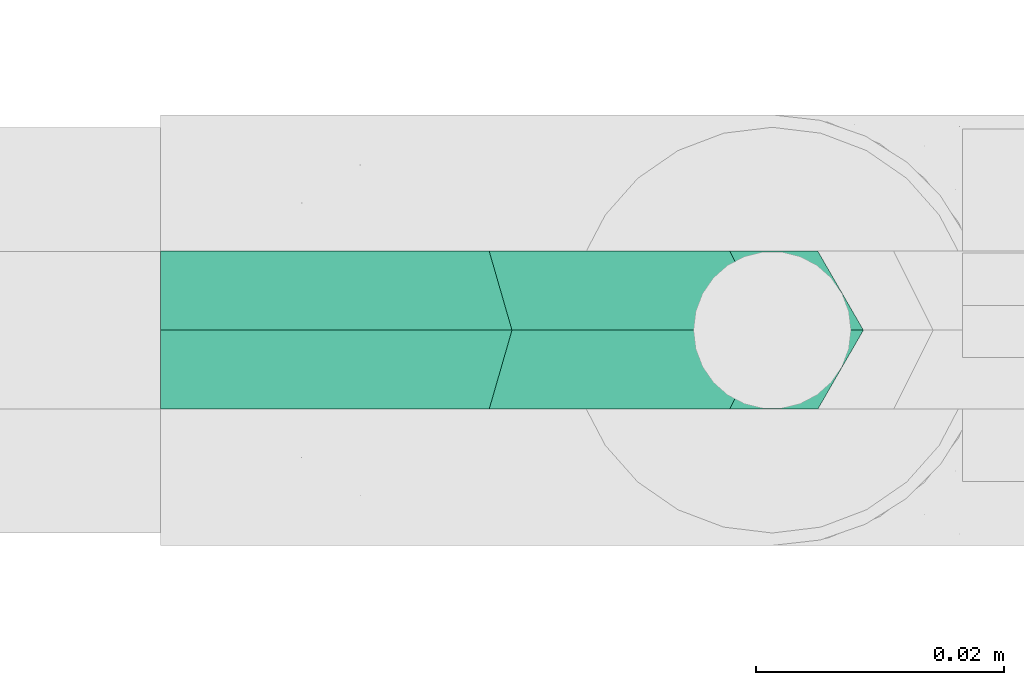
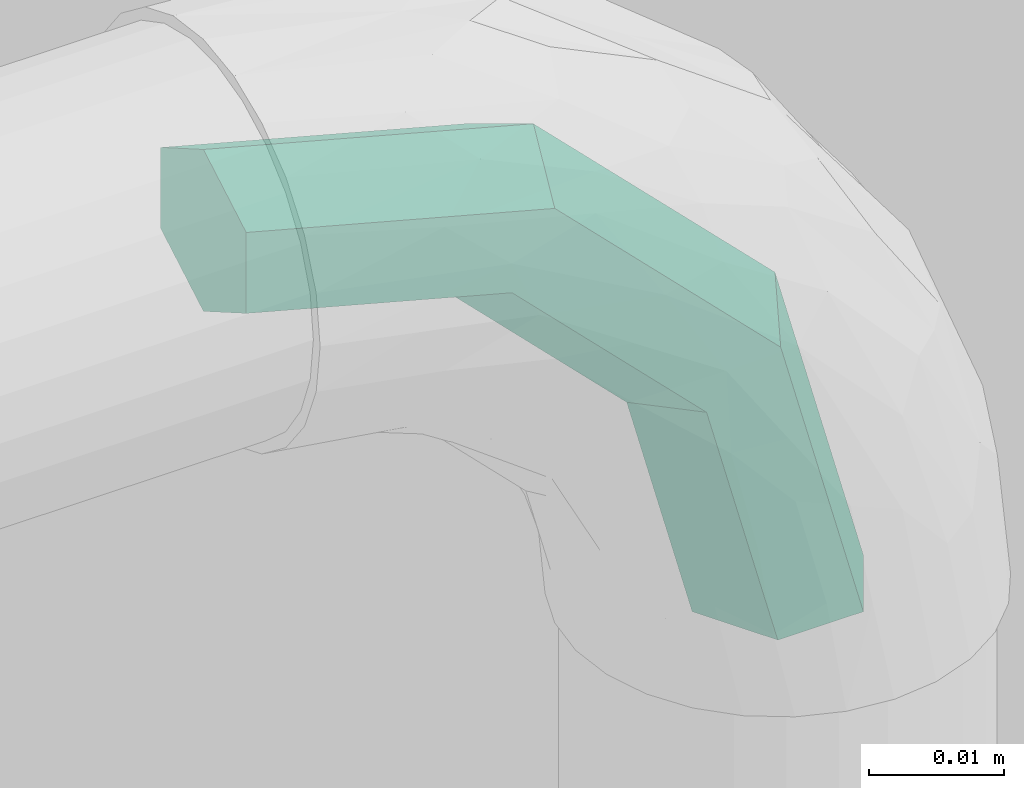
# One storey, part 29 of 32: 1 flow fitting.
"""IFC2X3 building model written with IfcOpenShell, lengths in metres."""

from ifc_helpers import new_model, entity, si_unit, converted_unit, derived_unit, direction, frame, origin, place, context, subcontext, project, spatial, faceted_brep, source, transform, mapped, material, type_object, type_shapes, element, save


model = new_model("IFC2X3")

# Units and contexts
model_context = context("Model", 3, precision=1e-05, world=origin(), true_north=direction((6.123031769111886e-17, 1.0)))
body_context = subcontext(model_context, "Body", "Model", "MODEL_VIEW")
ifc_project = project(units=[si_unit("LENGTHUNIT", "METRE"), si_unit("AREAUNIT", "SQUARE_METRE"), si_unit("VOLUMEUNIT", "CUBIC_METRE"), converted_unit("PLANEANGLEUNIT", "DEGREE", entity("IfcPlaneAngleMeasure", 0.017453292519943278), si_unit("PLANEANGLEUNIT", "RADIAN"), dimensions=[0, 0, 0, 0, 0, 0, 0]), si_unit("MASSUNIT", "GRAM", prefix="KILO"), derived_unit("MASSDENSITYUNIT", [(si_unit("MASSUNIT", "GRAM", prefix="KILO"), 1), (si_unit("LENGTHUNIT", "METRE"), -3)]), derived_unit("IONCONCENTRATIONUNIT", [(si_unit("MASSUNIT", "GRAM", prefix="KILO"), 1), (si_unit("LENGTHUNIT", "METRE"), -3)]), derived_unit("MOMENTOFINERTIAUNIT", [(si_unit("LENGTHUNIT", "METRE"), 4)]), si_unit("TIMEUNIT", "SECOND"), si_unit("FREQUENCYUNIT", "HERTZ"), si_unit("THERMODYNAMICTEMPERATUREUNIT", "DEGREE_CELSIUS"), derived_unit("THERMALTRANSMITTANCEUNIT", [(si_unit("MASSUNIT", "GRAM", prefix="KILO"), 1), (si_unit("THERMODYNAMICTEMPERATUREUNIT", "KELVIN"), -1), (si_unit("TIMEUNIT", "SECOND"), -3)]), derived_unit("THERMALCONDUCTANCEUNIT", [(si_unit("MASSUNIT", "GRAM", prefix="KILO"), 1), (si_unit("THERMODYNAMICTEMPERATUREUNIT", "KELVIN"), -1), (si_unit("TIMEUNIT", "SECOND"), -3), (si_unit("LENGTHUNIT", "METRE"), 1)]), derived_unit("VOLUMETRICFLOWRATEUNIT", [(si_unit("LENGTHUNIT", "METRE", prefix="DECI"), 3), (si_unit("TIMEUNIT", "SECOND"), -1)]), derived_unit("MASSFLOWRATEUNIT", [(si_unit("MASSUNIT", "GRAM", prefix="KILO"), 1), (si_unit("TIMEUNIT", "SECOND"), -1)]), derived_unit("ROTATIONALFREQUENCYUNIT", [(si_unit("TIMEUNIT", "SECOND"), -1)]), si_unit("ELECTRICCURRENTUNIT", "AMPERE"), si_unit("ELECTRICVOLTAGEUNIT", "VOLT"), si_unit("POWERUNIT", "WATT"), si_unit("FORCEUNIT", "NEWTON", prefix="KILO"), si_unit("ILLUMINANCEUNIT", "LUX"), si_unit("LUMINOUSFLUXUNIT", "LUMEN"), si_unit("LUMINOUSINTENSITYUNIT", "CANDELA"), si_unit("ENERGYUNIT", "JOULE"), derived_unit("USERDEFINED", [(si_unit("MASSUNIT", "GRAM", prefix="KILO"), -1), (si_unit("LENGTHUNIT", "METRE"), -2), (si_unit("TIMEUNIT", "SECOND"), 3), (si_unit("LUMINOUSFLUXUNIT", "LUMEN"), 1)]), derived_unit("USERDEFINED", [(si_unit("MASSUNIT", "GRAM", prefix="KILO"), 1), (si_unit("TIMEUNIT", "SECOND"), -3), (si_unit("LENGTHUNIT", "METRE"), 3), (si_unit("ELECTRICCURRENTUNIT", "AMPERE"), -2)]), derived_unit("SOUNDPOWERUNIT", [(si_unit("MASSUNIT", "GRAM", prefix="KILO"), 1), (si_unit("TIMEUNIT", "SECOND"), -3), (si_unit("LENGTHUNIT", "METRE"), 2)]), derived_unit("SOUNDPRESSUREUNIT", [(si_unit("MASSUNIT", "GRAM", prefix="KILO"), 1), (si_unit("LENGTHUNIT", "METRE"), -1), (si_unit("TIMEUNIT", "SECOND"), -2)]), derived_unit("LINEARVELOCITYUNIT", [(si_unit("LENGTHUNIT", "METRE"), 1), (si_unit("TIMEUNIT", "SECOND"), -1)]), si_unit("PRESSUREUNIT", "PASCAL"), derived_unit("USERDEFINED", [(si_unit("MASSUNIT", "GRAM", prefix="KILO"), 1), (si_unit("LENGTHUNIT", "METRE"), -2), (si_unit("TIMEUNIT", "SECOND"), -2)]), derived_unit("LINEARFORCEUNIT", [(si_unit("MASSUNIT", "GRAM", prefix="KILO"), 1), (si_unit("TIMEUNIT", "SECOND"), -2)]), derived_unit("PLANARFORCEUNIT", [(si_unit("MASSUNIT", "GRAM", prefix="KILO"), 1), (si_unit("LENGTHUNIT", "METRE"), -1), (si_unit("TIMEUNIT", "SECOND"), -2)]), derived_unit("SPECIFICHEATCAPACITYUNIT", [(si_unit("THERMODYNAMICTEMPERATUREUNIT", "KELVIN"), -1), (si_unit("LENGTHUNIT", "METRE"), 2), (si_unit("TIMEUNIT", "SECOND"), -2)]), derived_unit("HEATFLUXDENSITYUNIT", [(si_unit("MASSUNIT", "GRAM", prefix="KILO"), 1), (si_unit("TIMEUNIT", "SECOND"), -3)]), derived_unit("HEATINGVALUEUNIT", [(si_unit("LENGTHUNIT", "METRE"), 2), (si_unit("TIMEUNIT", "SECOND"), -2)]), derived_unit("VAPORPERMEABILITYUNIT", [(si_unit("LENGTHUNIT", "METRE"), -1), (si_unit("TIMEUNIT", "SECOND"), 1)]), derived_unit("DYNAMICVISCOSITYUNIT", [(si_unit("MASSUNIT", "GRAM", prefix="KILO"), 1), (si_unit("TIMEUNIT", "SECOND"), -1), (si_unit("LENGTHUNIT", "METRE"), -1)]), derived_unit("THERMALEXPANSIONCOEFFICIENTUNIT", [(si_unit("THERMODYNAMICTEMPERATUREUNIT", "KELVIN"), -1)]), derived_unit("MODULUSOFELASTICITYUNIT", [(si_unit("MASSUNIT", "GRAM", prefix="KILO"), 1), (si_unit("LENGTHUNIT", "METRE"), -1), (si_unit("TIMEUNIT", "SECOND"), -2)]), derived_unit("ISOTHERMALMOISTURECAPACITYUNIT", [(si_unit("MASSUNIT", "GRAM", prefix="KILO"), -1), (si_unit("LENGTHUNIT", "METRE"), 3)]), derived_unit("MOISTUREDIFFUSIVITYUNIT", [(si_unit("TIMEUNIT", "SECOND"), -1), (si_unit("LENGTHUNIT", "METRE"), 2)]), derived_unit("MASSPERLENGTHUNIT", [(si_unit("MASSUNIT", "GRAM", prefix="KILO"), 1), (si_unit("LENGTHUNIT", "METRE"), -1)]), derived_unit("THERMALRESISTANCEUNIT", [(si_unit("MASSUNIT", "GRAM", prefix="KILO"), -1), (si_unit("TIMEUNIT", "SECOND"), 3), (si_unit("THERMODYNAMICTEMPERATUREUNIT", "KELVIN"), 1)]), derived_unit("ACCELERATIONUNIT", [(si_unit("LENGTHUNIT", "METRE"), 1), (si_unit("TIMEUNIT", "SECOND"), -2)]), derived_unit("ANGULARVELOCITYUNIT", [(si_unit("TIMEUNIT", "SECOND"), -1), (si_unit("PLANEANGLEUNIT", "RADIAN"), 1)]), derived_unit("LINEARSTIFFNESSUNIT", [(si_unit("MASSUNIT", "GRAM", prefix="KILO"), 1), (si_unit("TIMEUNIT", "SECOND"), -2)]), derived_unit("WARPINGCONSTANTUNIT", [(si_unit("LENGTHUNIT", "METRE"), 6)]), derived_unit("LINEARMOMENTUNIT", [(si_unit("MASSUNIT", "GRAM", prefix="KILO"), 1), (si_unit("LENGTHUNIT", "METRE"), 1), (si_unit("TIMEUNIT", "SECOND"), -2)]), derived_unit("TORQUEUNIT", [(si_unit("MASSUNIT", "GRAM", prefix="KILO"), 1), (si_unit("LENGTHUNIT", "METRE"), 2), (si_unit("TIMEUNIT", "SECOND"), -2)])], contexts=[model_context])

# Site, building, storey
site_placement = place(None, origin())
site = spatial("IfcSite", under=ifc_project, at=site_placement, Name="Default", CompositionType="ELEMENT")
building_placement = place(site_placement, origin())
building = spatial("IfcBuilding", under=site, at=building_placement, CompositionType="ELEMENT")
storey_placement = place(building_placement, origin())
storey = spatial("IfcBuildingStorey", under=building, at=storey_placement, Name="Niveau 0", CompositionType="ELEMENT", Elevation=-1.949160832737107e-14)

# Flow fitting
ifc_material = material(Name="Cuivre")
pipe_fitting_type = type_object("IfcPipeFittingType", Name="Coude - tube frigo:Standard", PredefinedType="NOTDEFINED", material=ifc_material)
shared_shape = source(origin(), body_context, "Body", "Brep", [
    faceted_brep([(-0.000247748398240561, 0.020977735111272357, 0.0), (-0.003430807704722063, 0.022814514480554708, -0.006365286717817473), (0.0036582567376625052, 0.049301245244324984, -0.006365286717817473), (0.007333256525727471, 0.04930249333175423, 0.0), (-0.00979692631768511, 0.026488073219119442, -0.006365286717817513), (-0.0036917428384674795, 0.0492987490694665, -0.006365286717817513), (-0.012979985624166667, 0.028324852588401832, 0.0), (-0.007366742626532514, 0.04929750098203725, 0.0), (-0.009796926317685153, 0.026488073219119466, 0.00636528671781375), (-0.0036917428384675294, 0.0492987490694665, 0.00636528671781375), (-0.0034308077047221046, 0.022814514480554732, 0.0063652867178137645), (0.003658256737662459, 0.049301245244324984, 0.0063652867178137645), (-0.02097781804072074, 0.00024062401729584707, 0.0), (-0.022815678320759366, 0.003423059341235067, -0.006365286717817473), (-0.026491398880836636, 0.009787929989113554, -0.006365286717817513), (-0.028329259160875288, 0.012970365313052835, 0.0), (-0.02649139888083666, 0.009787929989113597, 0.00636528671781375), (-0.022815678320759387, 0.003423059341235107, 0.0063652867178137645), (-0.04929999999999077, -0.007350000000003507, 0.0), (-0.0492999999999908, -0.0036750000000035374, -0.006365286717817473), (-0.049299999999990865, 0.0036749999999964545, -0.006365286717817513), (-0.04929999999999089, 0.007349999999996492, 0.0), (-0.049299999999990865, 0.0036749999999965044, 0.00636528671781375), (-0.0492999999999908, -0.0036750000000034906, 0.0063652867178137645)], [[[0, 1, 2, 3]], [[1, 4, 5, 2]], [[4, 6, 7, 5]], [[6, 8, 9, 7]], [[8, 10, 11, 9]], [[10, 0, 3, 11]], [[12, 13, 1, 0]], [[13, 14, 4, 1]], [[14, 15, 6, 4]], [[15, 16, 8, 6]], [[16, 17, 10, 8]], [[17, 12, 0, 10]], [[18, 19, 13, 12]], [[19, 20, 14, 13]], [[20, 21, 15, 14]], [[21, 22, 16, 15]], [[22, 23, 17, 16]], [[23, 18, 12, 17]], [[3, 2, 5, 7, 9, 11]], [[23, 22, 21, 20, 19, 18]]]),
])
type_shapes(pipe_fitting_type, [shared_shape])
flow_fitting_placement = place(storey_placement, frame((-15.01034808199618, 1.3750530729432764, 0.035702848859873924), z_axis=(0.0, 1.0, 0.0), x_axis=(0.9999999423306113, 0.0, 0.00033961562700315)))
element("IfcFlowFitting", 1, at=flow_fitting_placement, inside=storey, type_object=pipe_fitting_type, material=ifc_material, Name="Coude - tube frigo:Standard", ObjectType="Coude - tube frigo:Standard", context=body_context, shape_type="MappedRepresentation", body=[
    mapped(shared_shape, transform((0.0, 0.0, 0.0), scale=1.0)),
])

save(model, "model.ifc")
